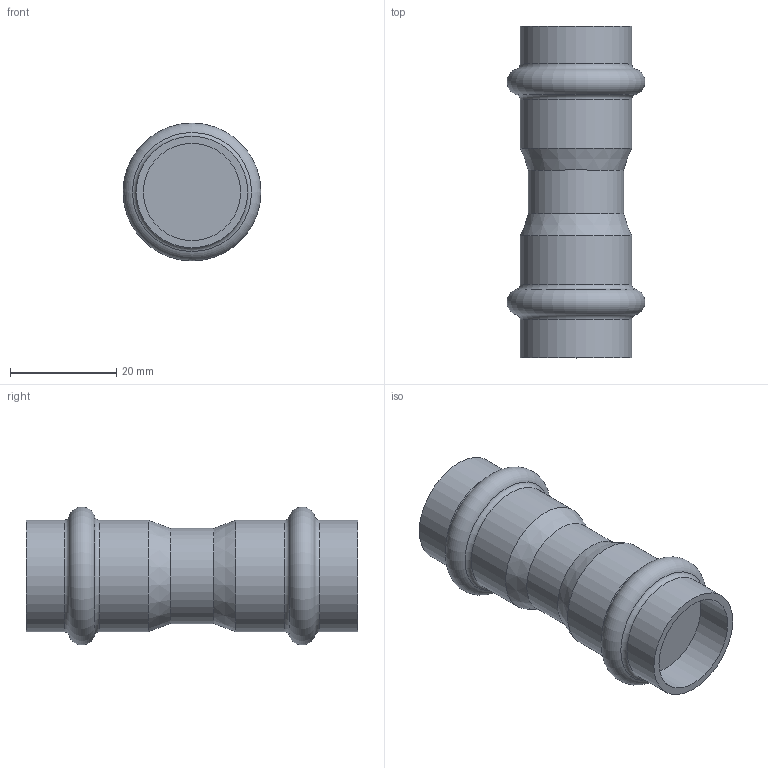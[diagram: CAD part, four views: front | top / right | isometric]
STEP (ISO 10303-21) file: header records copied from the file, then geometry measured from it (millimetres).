
FILE_DESCRIPTION(('STEP AP203'), '1');
FILE_NAME('VTi.903.I.001818', '', ('UNSPECIFIED'), ('UNSPECIFIED'), 'C3D Converter', 'C3D Toolkit', '');
FILE_SCHEMA(('CONFIG_CONTROL_DESIGN'));
Length unit declared in the file: millimetre
Bounding box: 25.99 x 62.5 x 25.99 mm (x, y, z)
Volume: 18202.7 mm3; surface area: 6010.2 mm2
Topology: 1 solids, 1 shells, 19 faces, 33 edges, 18 vertices
Faces by surface type: cylinder 7, torus 6, plane 4, cone 2
Full cylindrical faces by diameter (mm): 18 x1, 18.3 x2, 21 x4
Entity records: 414 total; most frequent: DIRECTION 76, CARTESIAN_POINT 56, AXIS2_PLACEMENT_3D 38, EDGE_LOOP 36, ORIENTED_EDGE 36, FACE_OUTER_BOUND 30, ADVANCED_FACE 19, EDGE_CURVE 18
